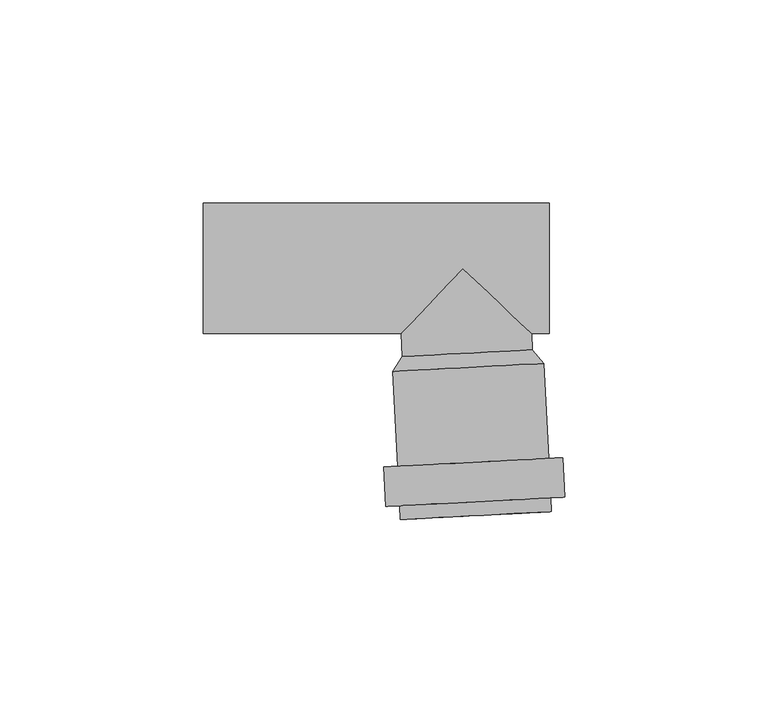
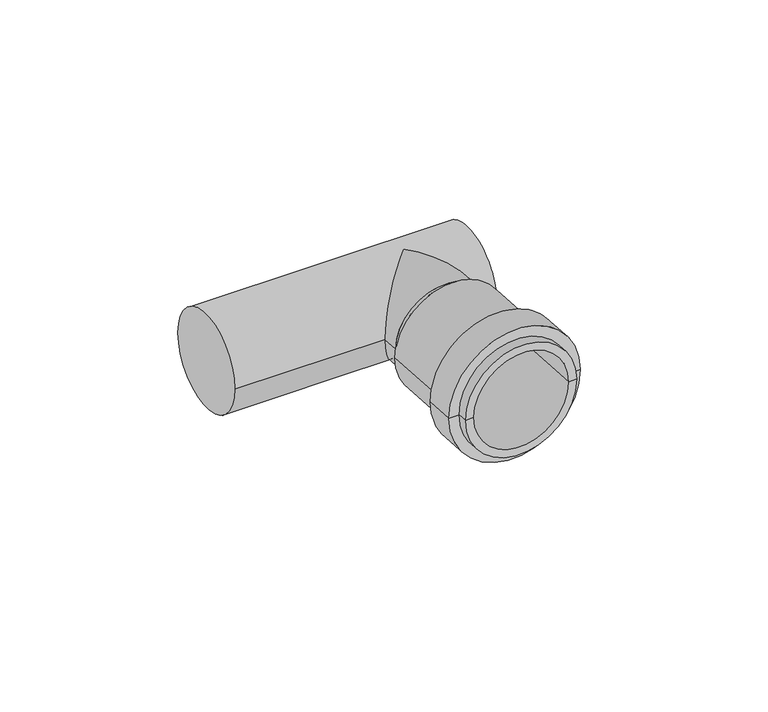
"""IFC4 building model written with IfcOpenShell, lengths in millimetres: pipe fitting geometry, pf_HTEA : pf_HTEA."""

from ifc_helpers import new_model, si_unit, frame, origin, place, context, project, spatial, polyline, circle_curve, ellipse_curve, source, transform, mapped, element, save
from ifc_brep_helpers import plane_surface, cylinder_surface, revolved_surface, advanced_brep


def pipe_fitting_384131f0(model_context):
    return source(origin(), model_context, "Body", "AdvancedBrep", [
        advanced_brep(
        [(-14.8842511, -21.7087326, 0.0), (17.071894, -20.033982, 0.0), (19.8515067, -23.3931119, 0.0), (-17.297512, -25.3400094, 0.0), (1.0938215, -20.8713573, 0.0), (-15.3872496, -61.7899875, 0.0), (21.7617691, -59.8430899, 0.0), (19.1653323, -59.9791634, 0.0), (-12.7908128, -61.653914, 0.0), (-15.5651919, -58.394647, 0.0), (21.5838268, -56.4477495, 0.0), (-18.9605323, -58.5725893, 0.0), (24.9791672, -56.2698072, 0.0), (-19.4681911, -48.8858828, 0.0), (24.4715085, -46.5831007, 0.0), (-16.0728506, -48.7079405, 0.0), (21.0761681, -46.761043, 0.0), (-14.7010752, -25.2039359, 0.0), (17.2550699, -23.5291853, 0.0), (1.2769973, -24.3665606, 0.0)],
        [
            (0, 1, circle_curve(frame((1.0938215, -20.8713573, 0.0), z_axis=(0.0523359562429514, -0.9986295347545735, 0.0), x_axis=(0.9986295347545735, 0.0523359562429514, 0.0)), 16.0)),
            (1, 2),
            (2, 3, circle_curve(frame((1.2769973, -24.3665606, 0.0), z_axis=(-0.0523359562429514, 0.9986295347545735, 0.0), x_axis=(0.9986295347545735, 0.0523359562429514, 0.0)), 18.6)),
            (3, 0),
            (1, 0, circle_curve(frame((1.0938215, -20.8713573, 0.0), z_axis=(0.0523359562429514, -0.9986295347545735, 0.0), x_axis=(0.9986295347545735, 0.0523359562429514, 0.0)), 16.0)),
            (3, 2, circle_curve(frame((1.2769973, -24.3665606, 0.0), z_axis=(-0.0523359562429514, 0.9986295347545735, 0.0), x_axis=(0.9986295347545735, 0.0523359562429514, 0.0)), 18.6)),
            (4, 1),
            (0, 4),
            (5, 6, circle_curve(frame((3.1872597, -60.8165387, 0.0), z_axis=(0.0523359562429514, -0.9986295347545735, 0.0), x_axis=(0.9986295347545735, 0.0523359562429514, 0.0)), 18.6)),
            (6, 7),
            (7, 8, circle_curve(frame((3.1872597, -60.8165387, 0.0), z_axis=(-0.0523359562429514, 0.9986295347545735, 0.0), x_axis=(0.9986295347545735, 0.0523359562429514, 0.0)), 16.0)),
            (8, 5),
            (6, 5, circle_curve(frame((3.1872597, -60.8165387, 0.0), z_axis=(0.0523359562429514, -0.9986295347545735, 0.0), x_axis=(0.9986295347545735, 0.0523359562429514, 0.0)), 18.6)),
            (8, 7, circle_curve(frame((3.1872597, -60.8165387, 0.0), z_axis=(-0.0523359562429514, 0.9986295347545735, 0.0), x_axis=(0.9986295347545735, 0.0523359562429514, 0.0)), 16.0)),
            (9, 10, circle_curve(frame((3.0093175, -57.4211982, 0.0), z_axis=(0.0523359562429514, -0.9986295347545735, 0.0), x_axis=(0.9986295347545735, 0.0523359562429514, 0.0)), 18.6)),
            (10, 6),
            (5, 9),
            (10, 9, circle_curve(frame((3.0093175, -57.4211982, 0.0), z_axis=(0.0523359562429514, -0.9986295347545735, 0.0), x_axis=(0.9986295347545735, 0.0523359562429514, 0.0)), 18.6)),
            (11, 12, circle_curve(frame((3.0093175, -57.4211982, 0.0), z_axis=(0.0523359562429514, -0.9986295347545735, 0.0), x_axis=(0.9986295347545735, 0.0523359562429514, 0.0)), 22.0)),
            (12, 10),
            (9, 11),
            (12, 11, circle_curve(frame((3.0093175, -57.4211982, 0.0), z_axis=(0.0523359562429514, -0.9986295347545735, 0.0), x_axis=(0.9986295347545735, 0.0523359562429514, 0.0)), 22.0)),
            (13, 14, circle_curve(frame((2.5016587, -47.7344918, 0.0), z_axis=(0.0523359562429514, -0.9986295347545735, 0.0), x_axis=(0.9986295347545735, 0.0523359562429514, 0.0)), 22.0)),
            (14, 12),
            (11, 13),
            (14, 13, circle_curve(frame((2.5016587, -47.7344918, 0.0), z_axis=(0.0523359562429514, -0.9986295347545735, 0.0), x_axis=(0.9986295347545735, 0.0523359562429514, 0.0)), 22.0)),
            (15, 16, circle_curve(frame((2.5016587, -47.7344918, 0.0), z_axis=(0.0523359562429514, -0.9986295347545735, 0.0), x_axis=(0.9986295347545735, 0.0523359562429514, 0.0)), 18.6)),
            (16, 14),
            (13, 15),
            (16, 15, circle_curve(frame((2.5016587, -47.7344918, 0.0), z_axis=(0.0523359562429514, -0.9986295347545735, 0.0), x_axis=(0.9986295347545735, 0.0523359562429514, 0.0)), 18.6)),
            (2, 16),
            (15, 3),
            (17, 18, circle_curve(frame((1.2769973, -24.3665606, 0.0), z_axis=(0.0523359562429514, -0.9986295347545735, 0.0), x_axis=(0.9986295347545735, 0.0523359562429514, 0.0)), 16.0)),
            (18, 19),
            (19, 17),
            (18, 17, circle_curve(frame((1.2769973, -24.3665606, 0.0), z_axis=(0.0523359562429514, -0.9986295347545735, 0.0), x_axis=(0.9986295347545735, 0.0523359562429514, 0.0)), 16.0)),
            (7, 18),
            (17, 8),
        ],
        [
            revolved_surface(polyline([(19.8515067, -23.3931119, 0.0), (17.071894, -20.033982, 0.0)]), (1.0938215, -20.8713573, 0.0), (-0.0523359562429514, 0.9986295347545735, 0.0)),
            plane_surface(frame((1.0938215, -20.8713573, 0.0), z_axis=(-0.0523359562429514, 0.9986295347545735, 0.0), x_axis=(0.9986295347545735, 0.0523359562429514, 0.0))),
            plane_surface(frame((3.1872597, -60.8165387, 0.0), z_axis=(0.0523359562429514, -0.9986295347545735, 0.0), x_axis=(0.9986295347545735, 0.0523359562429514, 0.0))),
            cylinder_surface(frame((1.0938215, -20.8713573, 0.0), z_axis=(-0.0523359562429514, 0.9986295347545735, 0.0), x_axis=(0.9986295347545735, 0.0523359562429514, 0.0)), 18.6),
            plane_surface(frame((3.0093175, -57.4211982, 0.0), z_axis=(0.0523359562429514, -0.9986295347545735, 0.0), x_axis=(0.9986295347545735, 0.0523359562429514, 0.0))),
            cylinder_surface(frame((1.0938215, -20.8713573, 0.0), z_axis=(-0.0523359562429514, 0.9986295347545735, 0.0), x_axis=(0.9986295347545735, 0.0523359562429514, 0.0)), 22.0),
            plane_surface(frame((2.5016587, -47.7344918, 0.0), z_axis=(-0.0523359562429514, 0.9986295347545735, 0.0), x_axis=(0.9986295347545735, 0.0523359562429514, 0.0))),
            plane_surface(frame((1.2769973, -24.3665606, 0.0), z_axis=(0.0523359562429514, -0.9986295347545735, 0.0), x_axis=(0.9986295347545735, 0.0523359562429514, 0.0))),
            revolved_surface(polyline([(17.25506989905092, -23.529185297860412, 0.0), (19.165332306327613, -59.9791634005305, 0.0)]), (1.0938215, -20.8713573, 0.0), (-0.0523359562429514, 0.9986295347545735, 0.0)),
        ],
        [
            (0, [[1, 2, 3, 4]]),
            (0, [[5, -4, 6, -2]]),
            (1, [[7, -1, 8]]),
            (1, [[-8, -5, -7]]),
            (2, [[9, 10, 11, 12]]),
            (2, [[13, -12, 14, -10]]),
            (3, [[15, 16, -9, 17]]),
            (3, [[18, -17, -13, -16]]),
            (4, [[19, 20, -15, 21]]),
            (4, [[22, -21, -18, -20]]),
            (5, [[23, 24, -19, 25]]),
            (5, [[26, -25, -22, -24]]),
            (6, [[27, 28, -23, 29]]),
            (6, [[30, -29, -26, -28]]),
            (3, [[-3, 31, -27, 32]]),
            (3, [[-6, -32, -30, -31]]),
            (7, [[33, 34, 35]]),
            (7, [[36, -35, -34]]),
            (8, [[-11, 37, -33, 38]]),
            (8, [[-14, -38, -36, -37]]),
        ],
    ),
        advanced_brep(
        [(-14.8842511, -21.7087326, 0.0), (17.071894, -20.033982, 0.0), (-63.8, -16.0, 0.0), (-63.8, 16.0, 0.0), (21.2, -16.0, 0.0), (21.2, 16.0, 0.0), (-15.1834331, -16.0, 0.0), (0.0, 0.0, 16.0), (16.860482, -16.0, 0.0), (0.0, 0.0, -16.0)],
        [
            (0, 1, circle_curve(frame((1.0938215, -20.8713573, 0.0), z_axis=(0.0523359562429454, -0.9986295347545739, 0.0), x_axis=(0.9986295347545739, 0.0523359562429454, 0.0)), 16.0)),
            (1, 0, circle_curve(frame((1.0938215, -20.8713573, 0.0), z_axis=(0.0523359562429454, -0.9986295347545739, 0.0), x_axis=(0.9986295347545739, 0.0523359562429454, 0.0)), 16.0)),
            (2, 3, circle_curve(frame((-63.8, 0.0, 0.0), z_axis=(-1.0, 0.0, 0.0), x_axis=(0.0, 1.0, 0.0)), 16.0)),
            (3, 2, circle_curve(frame((-63.8, 0.0, 0.0), z_axis=(-1.0, 0.0, 0.0), x_axis=(0.0, 1.0, 0.0)), 16.0)),
            (4, 5, circle_curve(frame((21.2, 0.0, 0.0), z_axis=(1.0, 0.0, 0.0), x_axis=(0.0, 1.0, 0.0)), 16.0)),
            (5, 4, circle_curve(frame((21.2, 0.0, 0.0), z_axis=(1.0, 0.0, 0.0), x_axis=(0.0, 1.0, 0.0)), 16.0)),
            (2, 6),
            (6, 7, ellipse_curve(frame((0.0, 0.0, 0.0), z_axis=(-0.7253743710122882, 0.6883545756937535, 0.0), x_axis=(-0.6883545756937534, -0.7253743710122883, 0.0)), 22.0575756, 16.0)),
            (7, 8, ellipse_curve(frame((0.0, 0.0, 0.0), z_axis=(0.6883545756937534, 0.7253743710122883, 0.0), x_axis=(-0.7253743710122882, 0.6883545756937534, 0.0)), 23.2438347, 16.0)),
            (8, 4),
            (5, 3),
            (8, 9, ellipse_curve(frame((0.0, 0.0, 0.0), z_axis=(0.6883545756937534, 0.7253743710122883, 0.0), x_axis=(-0.7253743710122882, 0.6883545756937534, 0.0)), 23.2438347, 16.0)),
            (9, 6, ellipse_curve(frame((0.0, 0.0, 0.0), z_axis=(-0.7253743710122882, 0.6883545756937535, 0.0), x_axis=(-0.6883545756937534, -0.7253743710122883, 0.0)), 22.0575756, 16.0)),
            (1, 8),
            (6, 0),
        ],
        [
            plane_surface(frame((1.0938215, -20.8713573, 0.0), z_axis=(0.052335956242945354, -0.9986295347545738, 0.0), x_axis=(0.0, 0.0, 1.0))),
            plane_surface(frame((-63.8, 0.0, 0.0), z_axis=(-1.0, 0.0, 0.0), x_axis=(0.0, 0.0, 1.0))),
            plane_surface(frame((21.2, 0.0, 0.0), z_axis=(1.0, 0.0, 0.0), x_axis=(0.0, 0.0, 1.0))),
            cylinder_surface(frame((-63.8, 0.0, 0.0), z_axis=(-1.0, 0.0, 0.0), x_axis=(0.0, 1.0, 0.0)), 16.0),
            cylinder_surface(frame((0.0, 0.0, 0.0), z_axis=(-0.0523359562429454, 0.9986295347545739, 0.0), x_axis=(0.9986295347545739, 0.0523359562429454, 0.0)), 16.0),
        ],
        [
            (0, [[1, 2]]),
            (1, [[3, 4]]),
            (2, [[5, 6]]),
            (3, [[-3, 7, 8, 9, 10, -6, 11]]),
            (3, [[-4, -11, -5, -10, 12, 13, -7]]),
            (4, [[-2, 14, -9, -8, 15]]),
            (4, [[-1, -15, -13, -12, -14]]),
        ],
    ),
    ])


if __name__ == "__main__":
    model = new_model("IFC4")
    model_context = context("Model", 3, world=origin())
    ifc_project = project(units=[si_unit("LENGTHUNIT", "METRE", prefix="MILLI")], contexts=[model_context])
    site = spatial("IfcSite", under=ifc_project)
    building = spatial("IfcBuilding", under=site)
    placement = place(None, origin())
    pipe_fitting_shape = pipe_fitting_384131f0(model_context)
    element("IfcPipeFitting", 1, ObjectType="pf_HTEA : pf_HTEA", at=placement, inside=building, context=model_context, shape_type="MappedRepresentation", body=[
        mapped(pipe_fitting_shape, transform((0.0, 0.0, 0.0), x_axis=(1.0, 0.0, 0.0), y_axis=(0.0, 1.0, 0.0), z_axis=(0.0, 0.0, 1.0))),
    ])
    save(model, "model.ifc")
